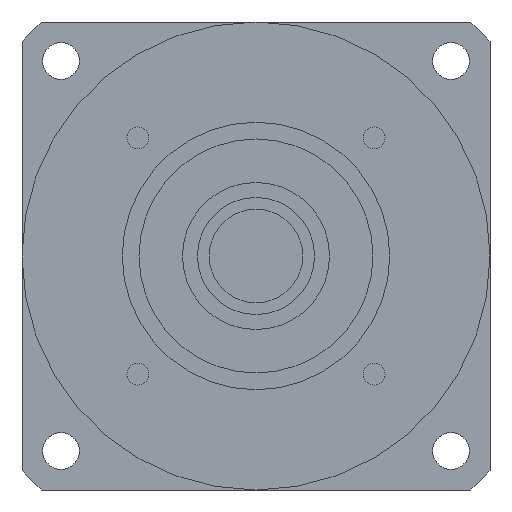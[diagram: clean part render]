
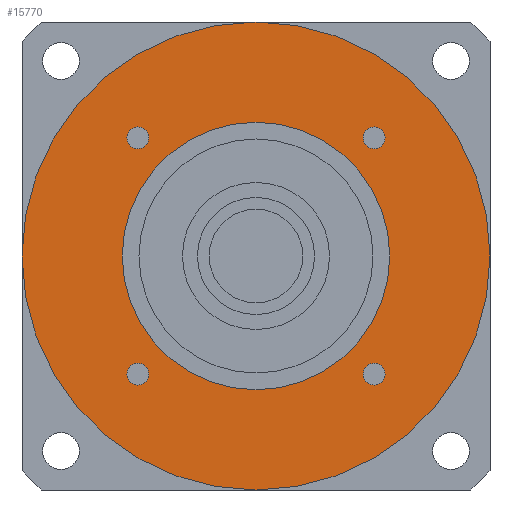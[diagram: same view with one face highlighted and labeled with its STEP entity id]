
A CAD part, left-side view. The second image highlights one B-rep face of the part: STEP entity #15770.
In plain terms, the highlighted planar face has unit normal (-1, 0, 0) as drawn and (0, 0, -1) by its records, which use the part's own axes.
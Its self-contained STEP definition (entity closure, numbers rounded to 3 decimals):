
#14650=CARTESIAN_POINT('',(70.,0.,-84.701));
#14660=VERTEX_POINT('',#14650);
#14690=CARTESIAN_POINT('',(0.,0.,
-84.701));
#14700=DIRECTION('',(0.,0.,-1.));
#14710=DIRECTION('',(-1.,0.,0.));
#14720=AXIS2_PLACEMENT_3D('',#14690,#14700,#14710);
#14730=CIRCLE('',#14720,70.);
#14740=CARTESIAN_POINT('',(-70.,0.,-84.701));
#14750=VERTEX_POINT('',#14740);
#14760=EDGE_CURVE('',#14660,#14750,#14730,.T.);
#14880=CARTESIAN_POINT('',(0.,0.,
-84.701));
#14890=DIRECTION('',(0.,0.,-1.));
#14900=DIRECTION('',(1.,0.,0.));
#14910=AXIS2_PLACEMENT_3D('',#14880,#14890,#14900);
#14920=PLANE('',#14910);
#14930=CARTESIAN_POINT('',(35.355,-35.355,-84.701));
#14940=DIRECTION('',(0.,0.,-1.));
#14950=DIRECTION('',(1.,0.,0.));
#14960=AXIS2_PLACEMENT_3D('',#14930,#14940,#14950);
#14970=CIRCLE('',#14960,3.25);
#14980=CARTESIAN_POINT('',(38.605,-35.355,-84.701));
#14990=VERTEX_POINT('',#14980);
#15000=CARTESIAN_POINT('',(32.105,-35.355,-84.701));
#15010=VERTEX_POINT('',#15000);
#15020=EDGE_CURVE('',#14990,#15010,#14970,.T.);
#15030=ORIENTED_EDGE('',*,*,#15020,.F.);
#15040=EDGE_CURVE('',#15010,#14990,#14970,.T.);
#15050=ORIENTED_EDGE('',*,*,#15040,.F.);
#15060=EDGE_LOOP('',(#15050,#15030));
#15070=FACE_BOUND('',#15060,.T.);
#15080=CARTESIAN_POINT('',(35.355,35.355,-84.701));
#15090=DIRECTION('',(0.,0.,-1.));
#15100=DIRECTION('',(0.,1.,0.));
#15110=AXIS2_PLACEMENT_3D('',#15080,#15090,#15100);
#15120=CIRCLE('',#15110,3.25);
#15130=CARTESIAN_POINT('',(35.355,38.605,-84.701));
#15140=VERTEX_POINT('',#15130);
#15150=CARTESIAN_POINT('',(35.355,32.105,-84.701));
#15160=VERTEX_POINT('',#15150);
#15170=EDGE_CURVE('',#15140,#15160,#15120,.T.);
#15180=ORIENTED_EDGE('',*,*,#15170,.F.);
#15190=EDGE_CURVE('',#15160,#15140,#15120,.T.);
#15200=ORIENTED_EDGE('',*,*,#15190,.F.);
#15210=EDGE_LOOP('',(#15200,#15180));
#15220=FACE_BOUND('',#15210,.T.);
#15230=CARTESIAN_POINT('',(-35.355,35.355,-84.701));
#15240=DIRECTION('',(0.,0.,-1.));
#15250=DIRECTION('',(-1.,0.,0.));
#15260=AXIS2_PLACEMENT_3D('',#15230,#15240,#15250);
#15270=CIRCLE('',#15260,3.25);
#15280=CARTESIAN_POINT('',(-38.605,35.355,-84.701));
#15290=VERTEX_POINT('',#15280);
#15300=CARTESIAN_POINT('',(-32.105,35.355,-84.701));
#15310=VERTEX_POINT('',#15300);
#15320=EDGE_CURVE('',#15290,#15310,#15270,.T.);
#15330=ORIENTED_EDGE('',*,*,#15320,.F.);
#15340=EDGE_CURVE('',#15310,#15290,#15270,.T.);
#15350=ORIENTED_EDGE('',*,*,#15340,.F.);
#15360=EDGE_LOOP('',(#15350,#15330));
#15370=FACE_BOUND('',#15360,.T.);
#15380=CARTESIAN_POINT('',(-35.355,-35.355,-84.701))
;
#15390=DIRECTION('',(0.,0.,-1.));
#15400=DIRECTION('',(0.,-1.,0.));
#15410=AXIS2_PLACEMENT_3D('',#15380,#15390,#15400);
#15420=CIRCLE('',#15410,3.25);
#15430=CARTESIAN_POINT('',(-35.355,-38.605,-84.701))
;
#15440=VERTEX_POINT('',#15430);
#15450=CARTESIAN_POINT('',(-35.355,-32.105,-84.701))
;
#15460=VERTEX_POINT('',#15450);
#15470=EDGE_CURVE('',#15440,#15460,#15420,.T.);
#15480=ORIENTED_EDGE('',*,*,#15470,.F.);
#15490=EDGE_CURVE('',#15460,#15440,#15420,.T.);
#15500=ORIENTED_EDGE('',*,*,#15490,.F.);
#15510=EDGE_LOOP('',(#15500,#15480));
#15520=FACE_BOUND('',#15510,.T.);
#15530=CARTESIAN_POINT('',(0.,0.,
-84.701));
#15540=DIRECTION('',(0.,0.,1.));
#15550=DIRECTION('',(0.,1.,0.));
#15560=AXIS2_PLACEMENT_3D('',#15530,#15540,#15550);
#15570=CIRCLE('',#15560,40.);
#15580=CARTESIAN_POINT('',(-40.,0.,-84.701));
#15590=VERTEX_POINT('',#15580);
#15600=CARTESIAN_POINT('',(40.,0.,-84.701));
#15610=VERTEX_POINT('',#15600);
#15620=EDGE_CURVE('',#15590,#15610,#15570,.T.);
#15630=ORIENTED_EDGE('',*,*,#15620,.T.);
#15640=CARTESIAN_POINT('',(0.,40.,-84.701));
#15650=VERTEX_POINT('',#15640);
#15660=EDGE_CURVE('',#15650,#15590,#15570,.T.);
#15670=ORIENTED_EDGE('',*,*,#15660,.T.);
#15680=EDGE_CURVE('',#15610,#15650,#15570,.T.);
#15690=ORIENTED_EDGE('',*,*,#15680,.T.);
#15700=EDGE_LOOP('',(#15690,#15670,#15630));
#15710=FACE_BOUND('',#15700,.T.);
#15720=EDGE_CURVE('',#14750,#14660,#14730,.T.);
#15730=ORIENTED_EDGE('',*,*,#15720,.T.);
#15740=ORIENTED_EDGE('',*,*,#14760,.T.);
#15750=EDGE_LOOP('',(#15740,#15730));
#15760=FACE_OUTER_BOUND('',#15750,.T.);
#15770=ADVANCED_FACE('',(#15070,#15220,#15370,#15520,#15710,#15760),
#14920,.T.);
